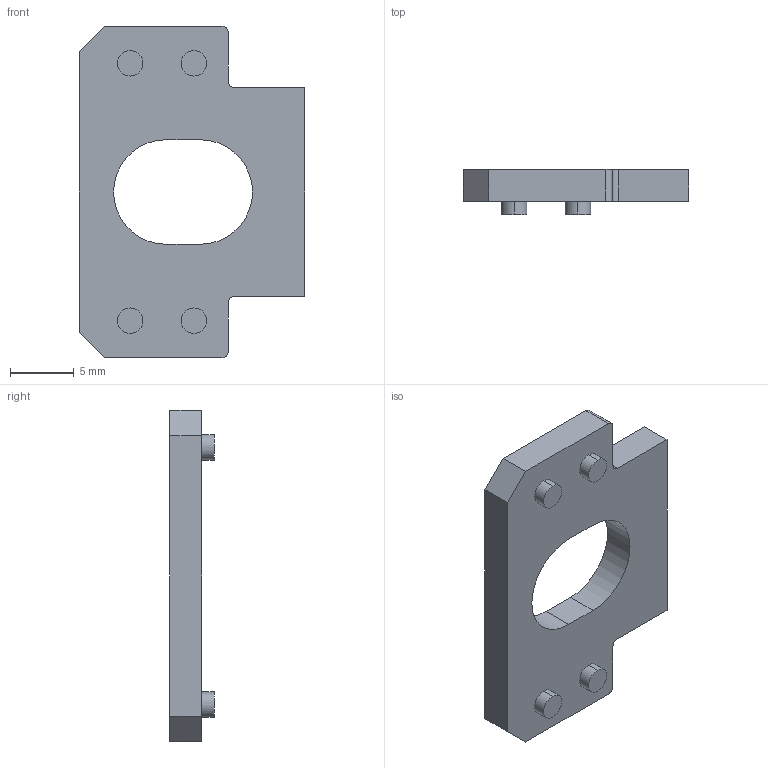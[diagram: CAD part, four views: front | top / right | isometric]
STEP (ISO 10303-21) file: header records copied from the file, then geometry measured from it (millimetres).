
FILE_DESCRIPTION((''),'2;1');
FILE_NAME('UP2_2_5T_BASE_BUSBAR','2020-06-16T',('HHI'),(''),'PRO/ENGINEER BY PARAMETRIC TECHNOLOGY CORPORATION, 2017170','PRO/ENGINEER BY PARAMETRIC TECHNOLOGY CORPORATION, 2017170','');
FILE_SCHEMA(('CONFIG_CONTROL_DESIGN'));
Length unit declared in the file: millimetre
Products named in the file (1): UP2_2_5T_BASE_BUSBAR
Bounding box: 17.7 x 3.5 x 26 mm (x, y, z)
Volume: 807.9 mm3; surface area: 982 mm2
Topology: 1 solids, 1 shells, 52 faces, 118 edges, 76 vertices
Faces by surface type: plane 22, cylinder 22, cone 8
Entity records: 1512 total; most frequent: DIRECTION 274, CARTESIAN_POINT 246, ORIENTED_EDGE 236, EDGE_CURVE 118, AXIS2_PLACEMENT_3D 104, VERTEX_POINT 76, VECTOR 66, LINE 66
